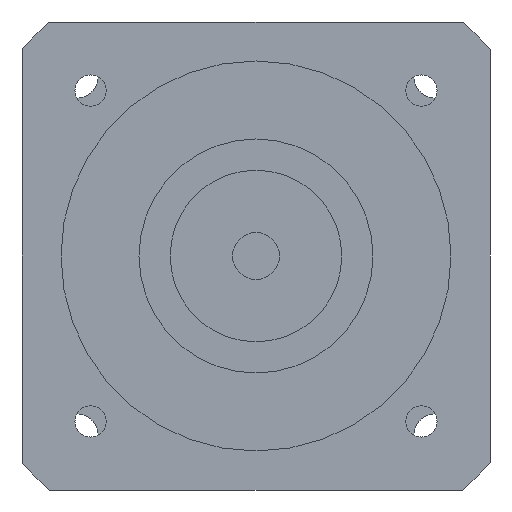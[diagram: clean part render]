
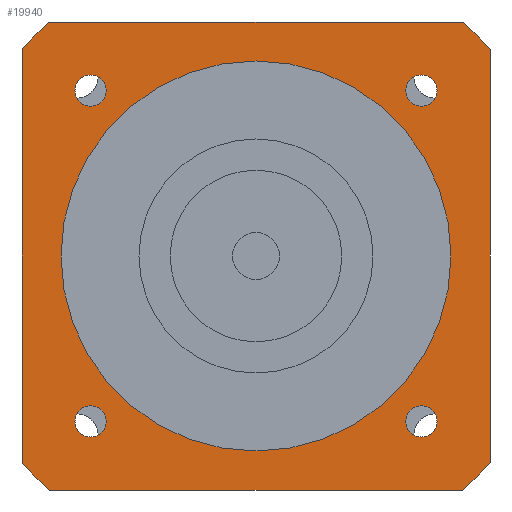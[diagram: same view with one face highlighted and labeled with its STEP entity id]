
A CAD part, left-side view. The second image highlights one B-rep face of the part: STEP entity #19940.
In plain terms, the highlighted planar face has unit normal (-1, 0, 0) as drawn and (0, 0, -1) by its records, which use the part's own axes.
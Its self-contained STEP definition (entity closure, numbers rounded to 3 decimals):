
#11110=CARTESIAN_POINT('',(30.,-26.458,-58.5));
#11120=VERTEX_POINT('',#11110);
#11150=CARTESIAN_POINT('',(0.,0.,
-58.5));
#11160=DIRECTION('',(0.,0.,-1.));
#11170=DIRECTION('',(0.,-1.,0.));
#11180=AXIS2_PLACEMENT_3D('',#11150,#11160,#11170);
#11190=CIRCLE('',#11180,40.);
#11200=CARTESIAN_POINT('',(26.458,-30.,-58.5));
#11210=VERTEX_POINT('',#11200);
#11220=EDGE_CURVE('',#11120,#11210,#11190,.T.);
#12870=CARTESIAN_POINT('',(-26.458,-30.,-58.5));
#12880=VERTEX_POINT('',#12870);
#12980=CARTESIAN_POINT('',(0.,-30.,-58.5));
#12990=DIRECTION('',(1.,0.,0.));
#13000=VECTOR('',#12990,1.);
#13010=LINE('',#12980,#13000);
#13020=EDGE_CURVE('',#12880,#11210,#13010,.T.);
#17820=CARTESIAN_POINT('',(0.,0.,
-58.5));
#17830=DIRECTION('',(0.,0.,-1.));
#17840=DIRECTION('',(0.,-1.,0.));
#17850=AXIS2_PLACEMENT_3D('',#17820,#17830,#17840);
#17860=CIRCLE('',#17850,40.);
#17870=CARTESIAN_POINT('',(-30.,-26.458,-58.5));
#17880=VERTEX_POINT('',#17870);
#17890=EDGE_CURVE('',#12880,#17880,#17860,.T.);
#18100=CARTESIAN_POINT('',(26.458,30.,-58.5));
#18110=VERTEX_POINT('',#18100);
#18140=CARTESIAN_POINT('',(0.,0.,
-58.5));
#18150=DIRECTION('',(0.,0.,-1.));
#18160=DIRECTION('',(0.,-1.,0.));
#18170=AXIS2_PLACEMENT_3D('',#18140,#18150,#18160);
#18180=CIRCLE('',#18170,40.);
#18190=CARTESIAN_POINT('',(30.,26.458,-58.5));
#18200=VERTEX_POINT('',#18190);
#18210=EDGE_CURVE('',#18110,#18200,#18180,.T.);
#18420=CARTESIAN_POINT('',(-26.458,30.,-58.5));
#18430=VERTEX_POINT('',#18420);
#18510=CARTESIAN_POINT('',(-30.,26.458,-58.5));
#18520=VERTEX_POINT('',#18510);
#18550=CARTESIAN_POINT('',(0.,0.,
-58.5));
#18560=DIRECTION('',(0.,0.,-1.));
#18570=DIRECTION('',(0.,-1.,0.));
#18580=AXIS2_PLACEMENT_3D('',#18550,#18560,#18570);
#18590=CIRCLE('',#18580,40.);
#18600=EDGE_CURVE('',#18520,#18430,#18590,.T.);
#18710=CARTESIAN_POINT('',(-30.,0.,-58.5));
#18720=DIRECTION('',(0.,-1.,0.));
#18730=VECTOR('',#18720,1.);
#18740=LINE('',#18710,#18730);
#18750=EDGE_CURVE('',#18520,#17880,#18740,.T.);
#18900=CARTESIAN_POINT('',(0.,30.,-58.5));
#18910=DIRECTION('',(-1.,0.,0.));
#18920=VECTOR('',#18910,1.);
#18930=LINE('',#18900,#18920);
#18940=EDGE_CURVE('',#18110,#18430,#18930,.T.);
#18990=CARTESIAN_POINT('',(18.513,-16.263,-58.5));
#19000=DIRECTION('',(0.,0.,-1.));
#19010=DIRECTION('',(0.,-1.,0.));
#19020=AXIS2_PLACEMENT_3D('',#18990,#19000,#19010);
#19030=PLANE('',#19020);
#19040=CARTESIAN_POINT('',(30.,0.,-58.5));
#19050=DIRECTION('',(0.,1.,0.));
#19060=VECTOR('',#19050,1.);
#19070=LINE('',#19040,#19060);
#19080=EDGE_CURVE('',#11120,#18200,#19070,.T.);
#19090=ORIENTED_EDGE('',*,*,#19080,.F.);
#19100=ORIENTED_EDGE('',*,*,#18210,.T.);
#19110=ORIENTED_EDGE('',*,*,#18940,.F.);
#19120=ORIENTED_EDGE('',*,*,#18600,.T.);
#19130=ORIENTED_EDGE('',*,*,#18750,.F.);
#19140=ORIENTED_EDGE('',*,*,#17890,.T.);
#19150=ORIENTED_EDGE('',*,*,#13020,.F.);
#19160=ORIENTED_EDGE('',*,*,#11220,.T.);
#19170=EDGE_LOOP('',(#19160,#19150,#19140,#19130,#19120,#19110,#19100,
#19090));
#19180=FACE_OUTER_BOUND('',#19170,.T.);
#19190=CARTESIAN_POINT('',(0.,0.,
-58.5));
#19200=DIRECTION('',(0.,0.,-1.));
#19210=DIRECTION('',(0.,-1.,0.));
#19220=AXIS2_PLACEMENT_3D('',#19190,#19200,#19210);
#19230=CIRCLE('',#19220,25.);
#19240=CARTESIAN_POINT('',(0.,-25.,-58.5));
#19250=VERTEX_POINT('',#19240);
#19260=CARTESIAN_POINT('',(0.,25.,-58.5));
#19270=VERTEX_POINT('',#19260);
#19280=EDGE_CURVE('',#19250,#19270,#19230,.T.);
#19290=ORIENTED_EDGE('',*,*,#19280,.F.);
#19300=EDGE_CURVE('',#19270,#19250,#19230,.T.);
#19310=ORIENTED_EDGE('',*,*,#19300,.F.);
#19320=EDGE_LOOP('',(#19310,#19290));
#19330=FACE_BOUND('',#19320,.T.);
#19340=CARTESIAN_POINT('',(21.213,21.213,-58.5));
#19350=DIRECTION('',(0.,0.,-1.));
#19360=DIRECTION('',(0.,-1.,0.));
#19370=AXIS2_PLACEMENT_3D('',#19340,#19350,#19360);
#19380=CIRCLE('',#19370,2.);
#19390=CARTESIAN_POINT('',(21.213,19.213,-58.5));
#19400=VERTEX_POINT('',#19390);
#19410=CARTESIAN_POINT('',(21.213,23.213,-58.5));
#19420=VERTEX_POINT('',#19410);
#19430=EDGE_CURVE('',#19400,#19420,#19380,.T.);
#19440=ORIENTED_EDGE('',*,*,#19430,.F.);
#19450=EDGE_CURVE('',#19420,#19400,#19380,.T.);
#19460=ORIENTED_EDGE('',*,*,#19450,.F.);
#19470=EDGE_LOOP('',(#19460,#19440));
#19480=FACE_BOUND('',#19470,.T.);
#19490=CARTESIAN_POINT('',(-21.213,21.213,-58.5));
#19500=DIRECTION('',(0.,0.,-1.));
#19510=DIRECTION('',(0.,-1.,0.));
#19520=AXIS2_PLACEMENT_3D('',#19490,#19500,#19510);
#19530=CIRCLE('',#19520,2.);
#19540=CARTESIAN_POINT('',(-21.213,19.213,-58.5));
#19550=VERTEX_POINT('',#19540);
#19560=CARTESIAN_POINT('',(-21.213,23.213,-58.5));
#19570=VERTEX_POINT('',#19560);
#19580=EDGE_CURVE('',#19550,#19570,#19530,.T.);
#19590=ORIENTED_EDGE('',*,*,#19580,.F.);
#19600=EDGE_CURVE('',#19570,#19550,#19530,.T.);
#19610=ORIENTED_EDGE('',*,*,#19600,.F.);
#19620=EDGE_LOOP('',(#19610,#19590));
#19630=FACE_BOUND('',#19620,.T.);
#19640=CARTESIAN_POINT('',(21.213,-21.213,-58.5));
#19650=DIRECTION('',(0.,0.,-1.));
#19660=DIRECTION('',(0.,-1.,0.));
#19670=AXIS2_PLACEMENT_3D('',#19640,#19650,#19660);
#19680=CIRCLE('',#19670,2.);
#19690=CARTESIAN_POINT('',(21.213,-23.213,-58.5));
#19700=VERTEX_POINT('',#19690);
#19710=CARTESIAN_POINT('',(21.213,-19.213,-58.5));
#19720=VERTEX_POINT('',#19710);
#19730=EDGE_CURVE('',#19700,#19720,#19680,.T.);
#19740=ORIENTED_EDGE('',*,*,#19730,.F.);
#19750=EDGE_CURVE('',#19720,#19700,#19680,.T.);
#19760=ORIENTED_EDGE('',*,*,#19750,.F.);
#19770=EDGE_LOOP('',(#19760,#19740));
#19780=FACE_BOUND('',#19770,.T.);
#19790=CARTESIAN_POINT('',(-21.213,-21.213,-58.5));
#19800=DIRECTION('',(0.,0.,-1.));
#19810=DIRECTION('',(0.,-1.,0.));
#19820=AXIS2_PLACEMENT_3D('',#19790,#19800,#19810);
#19830=CIRCLE('',#19820,2.);
#19840=CARTESIAN_POINT('',(-21.213,-23.213,-58.5));
#19850=VERTEX_POINT('',#19840);
#19860=CARTESIAN_POINT('',(-21.213,-19.213,-58.5));
#19870=VERTEX_POINT('',#19860);
#19880=EDGE_CURVE('',#19850,#19870,#19830,.T.);
#19890=ORIENTED_EDGE('',*,*,#19880,.F.);
#19900=EDGE_CURVE('',#19870,#19850,#19830,.T.);
#19910=ORIENTED_EDGE('',*,*,#19900,.F.);
#19920=EDGE_LOOP('',(#19910,#19890));
#19930=FACE_BOUND('',#19920,.T.);
#19940=ADVANCED_FACE('',(#19180,#19330,#19480,#19630,#19780,#19930),
#19030,.T.);
